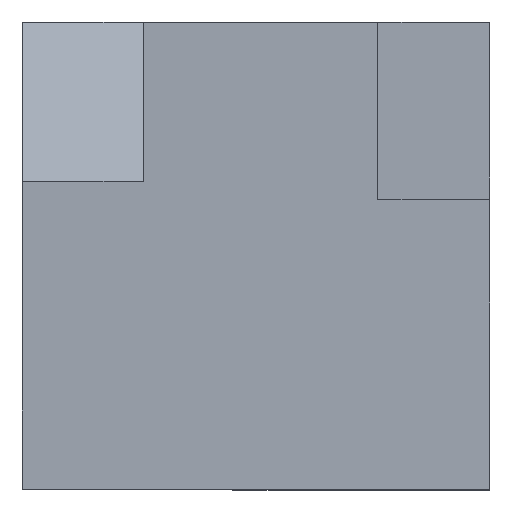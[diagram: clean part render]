
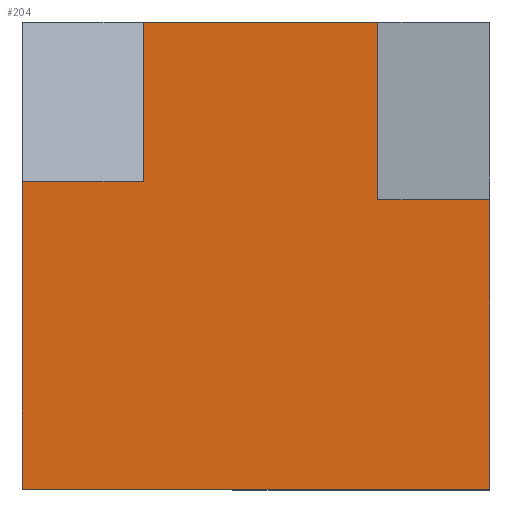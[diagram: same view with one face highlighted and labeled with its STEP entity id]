
A CAD part, top view. The second image highlights one B-rep face of the part: STEP entity #204.
In plain terms, the highlighted planar face has unit normal (0, 0, 1).
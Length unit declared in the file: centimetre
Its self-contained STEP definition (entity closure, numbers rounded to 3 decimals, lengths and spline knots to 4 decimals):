
#18 = DIRECTION ( 'NONE',  ( 0., 0., 1. ) ) ;
#23 = CARTESIAN_POINT ( 'NONE',  ( 0., 1000., 1000. ) ) ;
#28 = LINE ( 'NONE', #23, #156 ) ;
#30 = EDGE_CURVE ( 'NONE', #353, #399, #493, .T. ) ;
#40 = VECTOR ( 'NONE', #113, 100. ) ;
#47 = AXIS2_PLACEMENT_3D ( 'NONE', #82, #18, #566 ) ;
#59 = CARTESIAN_POINT ( 'NONE',  ( 258.7517, 658.6711, 1000. ) ) ;
#69 = DIRECTION ( 'NONE',  ( 0., -1., 0. ) ) ;
#72 = VERTEX_POINT ( 'NONE', #512 ) ;
#74 = CARTESIAN_POINT ( 'NONE',  ( 0., 1000., 1000. ) ) ;
#77 = CARTESIAN_POINT ( 'NONE',  ( 760.7993, 619.211, 1000. ) ) ;
#79 = DIRECTION ( 'NONE',  ( -1., 0., 0. ) ) ;
#82 = CARTESIAN_POINT ( 'NONE',  ( 0., 0., 1000. ) ) ;
#83 = LINE ( 'NONE', #470, #532 ) ;
#87 = CARTESIAN_POINT ( 'NONE',  ( 1000., 1000., 1000. ) ) ;
#96 = EDGE_CURVE ( 'NONE', #399, #492, #370, .T. ) ;
#110 = EDGE_CURVE ( 'NONE', #308, #157, #28, .T. ) ;
#112 = PLANE ( 'NONE',  #47 ) ;
#113 = DIRECTION ( 'NONE',  ( -1., 0., 0. ) ) ;
#123 = DIRECTION ( 'NONE',  ( 1., 0., 0. ) ) ;
#133 = VECTOR ( 'NONE', #69, 100. ) ;
#138 = CARTESIAN_POINT ( 'NONE',  ( 1000., 619.211, 1000. ) ) ;
#141 = EDGE_CURVE ( 'NONE', #353, #157, #83, .T. ) ;
#142 = CARTESIAN_POINT ( 'NONE',  ( 760.7993, 619.211, 1000. ) ) ;
#153 = VECTOR ( 'NONE', #123, 100. ) ;
#156 = VECTOR ( 'NONE', #79, 100. ) ;
#157 = VERTEX_POINT ( 'NONE', #221 ) ;
#178 = LINE ( 'NONE', #77, #296 ) ;
#204 = ADVANCED_FACE ( 'NONE', ( #464 ), #112, .T. ) ;
#205 = EDGE_CURVE ( 'NONE', #422, #350, #178, .T. ) ;
#212 = VECTOR ( 'NONE', #460, 100. ) ;
#220 = CARTESIAN_POINT ( 'NONE',  ( 760.7993, 619.211, 1000. ) ) ;
#221 = CARTESIAN_POINT ( 'NONE',  ( 258.7517, 1000., 1000. ) ) ;
#228 = DIRECTION ( 'NONE',  ( 1., 0., 0. ) ) ;
#234 = DIRECTION ( 'NONE',  ( 0., -1., 0. ) ) ;
#243 = CARTESIAN_POINT ( 'NONE',  ( 0., 658.6711, 1000. ) ) ;
#274 = ORIENTED_EDGE ( 'NONE', *, *, #287, .F. ) ;
#287 = EDGE_CURVE ( 'NONE', #308, #422, #332, .T. ) ;
#296 = VECTOR ( 'NONE', #228, 100. ) ;
#301 = EDGE_CURVE ( 'NONE', #72, #350, #521, .T. ) ;
#308 = VERTEX_POINT ( 'NONE', #358 ) ;
#330 = CARTESIAN_POINT ( 'NONE',  ( 0., 0., 1000. ) ) ;
#332 = LINE ( 'NONE', #220, #133 ) ;
#347 = EDGE_LOOP ( 'NONE', ( #274, #555, #592, #461, #348, #502, #627, #596 ) ) ;
#348 = ORIENTED_EDGE ( 'NONE', *, *, #96, .T. ) ;
#350 = VERTEX_POINT ( 'NONE', #138 ) ;
#353 = VERTEX_POINT ( 'NONE', #616 ) ;
#358 = CARTESIAN_POINT ( 'NONE',  ( 760.7993, 1000., 1000. ) ) ;
#370 = LINE ( 'NONE', #74, #439 ) ;
#386 = CARTESIAN_POINT ( 'NONE',  ( 0., 0., 1000. ) ) ;
#399 = VERTEX_POINT ( 'NONE', #243 ) ;
#422 = VERTEX_POINT ( 'NONE', #142 ) ;
#439 = VECTOR ( 'NONE', #234, 100. ) ;
#460 = DIRECTION ( 'NONE',  ( 0., 1., 0. ) ) ;
#461 = ORIENTED_EDGE ( 'NONE', *, *, #30, .T. ) ;
#464 = FACE_OUTER_BOUND ( 'NONE', #347, .T. ) ;
#470 = CARTESIAN_POINT ( 'NONE',  ( 258.7517, 1000., 1000. ) ) ;
#492 = VERTEX_POINT ( 'NONE', #330 ) ;
#493 = LINE ( 'NONE', #59, #40 ) ;
#502 = ORIENTED_EDGE ( 'NONE', *, *, #546, .T. ) ;
#512 = CARTESIAN_POINT ( 'NONE',  ( 1000., 0., 1000. ) ) ;
#521 = LINE ( 'NONE', #87, #212 ) ;
#532 = VECTOR ( 'NONE', #614, 100. ) ;
#546 = EDGE_CURVE ( 'NONE', #492, #72, #573, .T. ) ;
#555 = ORIENTED_EDGE ( 'NONE', *, *, #110, .T. ) ;
#566 = DIRECTION ( 'NONE',  ( 1., 0., 0. ) ) ;
#573 = LINE ( 'NONE', #386, #153 ) ;
#592 = ORIENTED_EDGE ( 'NONE', *, *, #141, .F. ) ;
#596 = ORIENTED_EDGE ( 'NONE', *, *, #205, .F. ) ;
#614 = DIRECTION ( 'NONE',  ( 0., 1., 0. ) ) ;
#616 = CARTESIAN_POINT ( 'NONE',  ( 258.7517, 658.6711, 1000. ) ) ;
#627 = ORIENTED_EDGE ( 'NONE', *, *, #301, .T. ) ;
